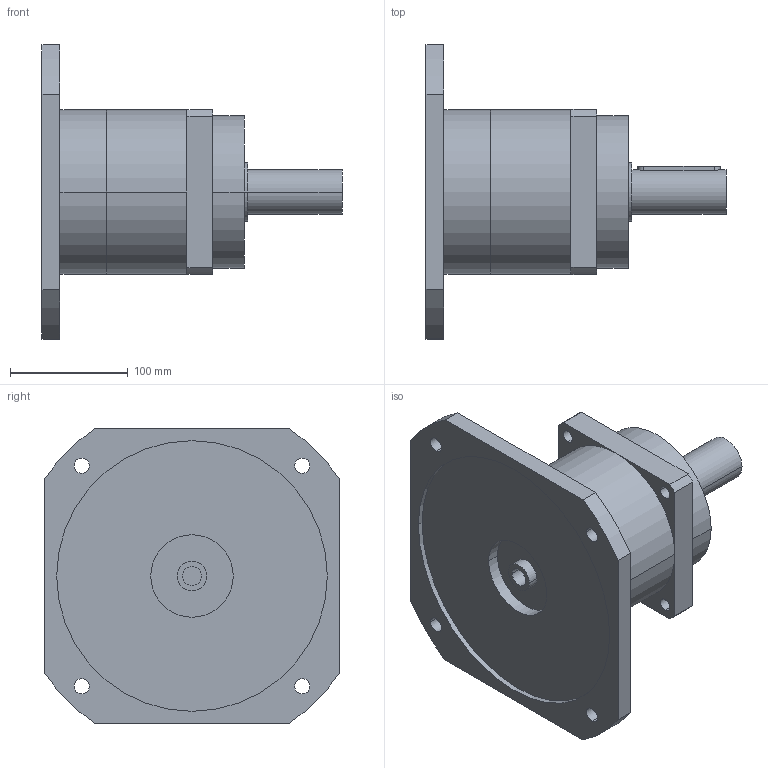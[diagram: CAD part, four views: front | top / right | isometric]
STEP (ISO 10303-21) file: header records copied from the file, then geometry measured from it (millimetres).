
FILE_DESCRIPTION(('CoCreate Modeling STEP Export'),'2;1');
FILE_NAME('GPR150_ig-3-4-5-7_38_B5_16_P07.stp','2014-08-19T16:41:52',(''),(''),'CoCreate Modeling STEP processor for AP214 (Solid Model)','CoCreate Modeling 16.00C 25-Feb-2009 (C) Parametric Technology GmbH','');
FILE_SCHEMA(('AUTOMOTIVE_DESIGN { 1 0 10303 214 1 1 1 1 }'));
Length unit declared in the file: millimetre
Products named in the file (2): GPR150_ig-3-4-5-7_38_B5_16_P07
Assembly tree (1 placements, depth 2):
  GPR150_ig-3-4-5-7_38_B5_16_P07
    GPR150_ig-3-4-5-7_38_B5_16_P07
Bounding box: 255 x 250 x 250 mm (x, y, z)
Volume: 3192283.2 mm3; surface area: 234562.9 mm2
Topology: 1 solids, 1 shells, 78 faces, 214 edges, 146 vertices
Faces by surface type: cylinder 46, plane 26, cone 6
Entity records: 2260 total; most frequent: ORIENTED_EDGE 424, CARTESIAN_POINT 421, DIRECTION 320, EDGE_CURVE 212, VERTEX_POINT 146, AXIS2_PLACEMENT_3D 117, EDGE_LOOP 104, VECTOR 86
